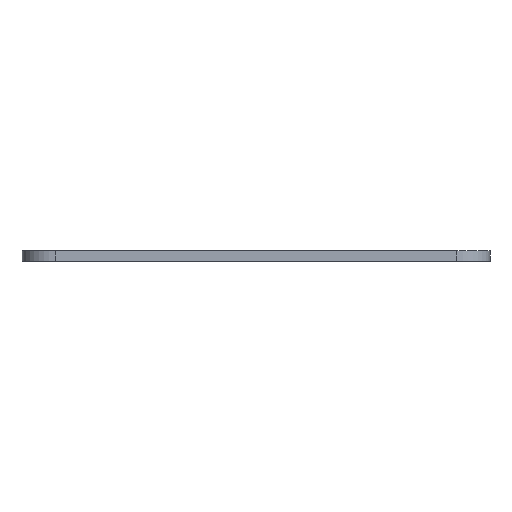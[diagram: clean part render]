
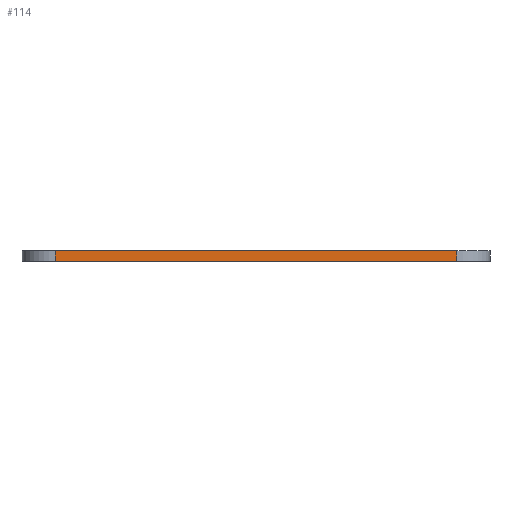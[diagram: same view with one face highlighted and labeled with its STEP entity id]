
A CAD part, left-side view. The second image highlights one B-rep face of the part: STEP entity #114.
In plain terms, the highlighted planar face has unit normal (-1, 0, 0).
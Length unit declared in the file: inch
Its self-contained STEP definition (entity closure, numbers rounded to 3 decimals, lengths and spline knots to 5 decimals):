
#7 = ORIENTED_EDGE ( 'NONE', *, *, #301, .T. ) ;
#99 = VERTEX_POINT ( 'NONE', #503 ) ;
#100 = VERTEX_POINT ( 'NONE', #504 ) ;
#101 = VERTEX_POINT ( 'NONE', #505 ) ;
#102 = VERTEX_POINT ( 'NONE', #506 ) ;
#114 = ADVANCED_FACE ( 'NONE', ( #589 ), #633, .F. ) ;
#153 = ORIENTED_EDGE ( 'NONE', *, *, #300, .T. ) ;
#154 = ORIENTED_EDGE ( 'NONE', *, *, #823, .F. ) ;
#156 = ORIENTED_EDGE ( 'NONE', *, *, #302, .T. ) ;
#260 = EDGE_LOOP ( 'NONE', ( #7, #153, #154, #156 ) ) ;
#300 = EDGE_CURVE ( 'NONE', #100, #101, #791, .T. ) ;
#301 = EDGE_CURVE ( 'NONE', #99, #100, #787, .T. ) ;
#302 = EDGE_CURVE ( 'NONE', #102, #99, #794, .T. ) ;
#345 = AXIS2_PLACEMENT_3D ( 'NONE', #632, #635, #636 ) ;
#503 = CARTESIAN_POINT ( 'NONE',  ( 0., 2.49437, 0. ) ) ;
#504 = CARTESIAN_POINT ( 'NONE',  ( 0., 0.19062, 0. ) ) ;
#505 = CARTESIAN_POINT ( 'NONE',  ( 0., 0.19062, 0.0625 ) ) ;
#506 = CARTESIAN_POINT ( 'NONE',  ( 0., 2.49437, 0.0625 ) ) ;
#589 = FACE_OUTER_BOUND ( 'NONE', #260, .T. ) ;
#632 = CARTESIAN_POINT ( 'NONE',  ( 0., 2.685, 0.0625 ) ) ;
#633 = PLANE ( 'NONE',  #345 ) ;
#635 = DIRECTION ( 'NONE',  ( 1., 0., 0. ) ) ;
#636 = DIRECTION ( 'NONE',  ( 0., 1., 0. ) ) ;
#718 = CARTESIAN_POINT ( 'NONE',  ( 0., 2.685, 0. ) ) ;
#724 = CARTESIAN_POINT ( 'NONE',  ( 0., 0.19062, 0.0625 ) ) ;
#725 = DIRECTION ( 'NONE',  ( 0., 0., 1. ) ) ;
#727 = DIRECTION ( 'NONE',  ( 0., -1., 0. ) ) ;
#728 = CARTESIAN_POINT ( 'NONE',  ( 0., 2.49437, 0.0625 ) ) ;
#729 = DIRECTION ( 'NONE',  ( 0., 0., -1. ) ) ;
#743 = CARTESIAN_POINT ( 'NONE',  ( 0., 2.685, 0.0625 ) ) ;
#744 = DIRECTION ( 'NONE',  ( 0., -1., 0. ) ) ;
#787 = LINE ( 'NONE', #718, #793 ) ;
#791 = LINE ( 'NONE', #724, #792 ) ;
#792 = VECTOR ( 'NONE', #725, 39.37008 ) ;
#793 = VECTOR ( 'NONE', #727, 39.37008 ) ;
#794 = LINE ( 'NONE', #728, #795 ) ;
#795 = VECTOR ( 'NONE', #729, 39.37008 ) ;
#805 = LINE ( 'NONE', #743, #806 ) ;
#806 = VECTOR ( 'NONE', #744, 39.37008 ) ;
#823 = EDGE_CURVE ( 'NONE', #102, #101, #805, .T. ) ;
